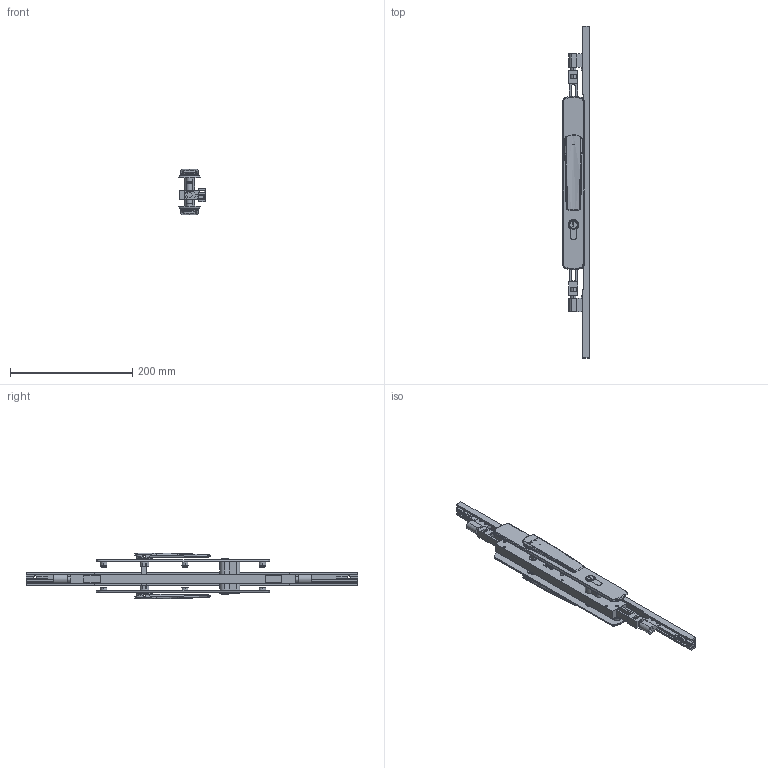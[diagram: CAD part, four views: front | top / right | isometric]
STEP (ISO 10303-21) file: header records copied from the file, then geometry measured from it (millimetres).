
FILE_DESCRIPTION (( 'STEP AP214' ), '1' );
FILE_NAME ('TPL-W-APC-614-L 28Oct2024.STEP', '2024-10-28T03:52:20', ( '' ), ( '' ), 'SwSTEP 2.0', 'SolidWorks 2023', '' );
FILE_SCHEMA (( 'AUTOMOTIVE_DESIGN' ));
Length unit declared in the file: millimetre
Products named in the file (24): Copy of LKC-514 Escutcheon plate keyed external 285mm long zinc - simplified^Copy of TPGen2 handle keyed external zinc - simplified_TPL-W-APC-114 18Oct2024; Copy of LKC-531 Lock twinpoint transmission rod wood system^TPL-W-APC-114 18Oct2024_Standard Range (588.7mm); Adapter D - simplfied^TPL-W-APC-114 18Oct2024; Copy of COV-115-A Cover A suit TPLGen2 standard range AU with hinge holes^TPL-W-APC-114 18Oct2024_1335mm; Copy of LKC-505 Swing handle zinc - simplified^Copy of TPGen2 handle keyed internal zinc - simplified_TPL-W-APC-114 18Oct2024; Copy of LKC-586 Spindle square 8mm with M4 hole^Copy of TPGen2 handle keyed internal zinc - simplified_TPL-W-APC-114 18Oct2024_42mm; Copy of LKC-585 Rotator body zinc^Copy of TPGen2 handle keyed internal zinc - simplified_TPL-W-APC-114 18Oct2024; Copy of COV-115-C Cover C suit TPLGen2 standard range AU^TPL-W-APC-114 18Oct2024; Copy of COV-115-B Cover B suit TPLGen2 standard range AU with hinge holes^TPL-W-APC-114 18Oct2024_2870mm; Copy of LKC-505 Swing handle zinc - simplified^Copy of TPGen2 handle keyed external zinc - simplified_TPL-W-APC-114 18Oct2024; Copy of TPLGen2 push rod - simplified^Copy of TPLGen2 lock body keyed assembly_TPL-W-APC-114 18Oct2024_Female thread M10; Copy of TPLGen2 lock body keyed^Copy of TPLGen2 lock body keyed assembly_TPL-W-APC-114 18Oct2024; Bolt.step; Copy of TPLGen2 lock body keyed assembly^TPL-W-APC-114 18Oct2024_Bolts extended; Copy of LKC-585 Rotator body zinc^Copy of TPGen2 handle keyed external zinc - simplified_TPL-W-APC-114 18Oct2024; Adapter C - simplfied^TPL-W-APC-114 18Oct2024; Copy of TPL-036 Lock cylinder double key C4 3-5 PIN 55 (23-32)mm^TPL-W-APC-114 18Oct2024_Right; Copy of LKC-584 Pivot body zinc - simplified^Copy of TPGen2 handle keyed internal zinc - simplified_TPL-W-APC-114 18Oct2024; Copy of LKC-584 Pivot body zinc - simplified^Copy of TPGen2 handle keyed external zinc - simplified_TPL-W-APC-114 18Oct2024; Copy of Copy of LKC-531 Lock twinpoint transmission rod wood system^TPL-W-APC-114 18Oct2024_Standard Range 2891.7mm; Copy of LKC-512 Escutcheon plate keyed internal 285mm long zinc - simplified^Copy of TPGen2 handle keyed internal zinc - simplified_TPL-W-APC-114 18Oct2024; Copy of TPGen2 handle keyed internal zinc - simplified^TPL-W-APC-114 18Oct2024_Vertical; Copy of TPGen2 handle keyed external zinc - simplified^TPL-W-APC-114 18Oct2024_Vertical; TPL-W-APC-614-L 28Oct2024
Assembly tree (21 placements, depth 3):
  Copy of COV-115-A Cover A suit TPLGen2 standard range AU with hinge holes^TPL-W-APC-114 18Oct2024_1335mm
  Copy of COV-115-B Cover B suit TPLGen2 standard range AU with hinge holes^TPL-W-APC-114 18Oct2024_2870mm
  Bolt.step
  TPL-W-APC-614-L 28Oct2024
    Copy of TPLGen2 lock body keyed assembly^TPL-W-APC-114 18Oct2024_Bolts extended
      Copy of TPLGen2 lock body keyed^Copy of TPLGen2 lock body keyed assembly_TPL-W-APC-114 18Oct2024
      Copy of TPLGen2 push rod - simplified^Copy of TPLGen2 lock body keyed assembly_TPL-W-APC-114 18Oct2024_Female thread M10  x2
    Copy of TPGen2 handle keyed internal zinc - simplified^TPL-W-APC-114 18Oct2024_Vertical
      Copy of LKC-512 Escutcheon plate keyed internal 285mm long zinc - simplified^Copy of TPGen2 handle keyed internal zinc - simplified_TPL-W-APC-114 18Oct2024
      Copy of LKC-505 Swing handle zinc - simplified^Copy of TPGen2 handle keyed internal zinc - simplified_TPL-W-APC-114 18Oct2024
      Copy of LKC-585 Rotator body zinc^Copy of TPGen2 handle keyed internal zinc - simplified_TPL-W-APC-114 18Oct2024
      Copy of LKC-586 Spindle square 8mm with M4 hole^Copy of TPGen2 handle keyed internal zinc - simplified_TPL-W-APC-114 18Oct2024_42mm
      Copy of LKC-584 Pivot body zinc - simplified^Copy of TPGen2 handle keyed internal zinc - simplified_TPL-W-APC-114 18Oct2024
    Copy of TPGen2 handle keyed external zinc - simplified^TPL-W-APC-114 18Oct2024_Vertical
      Copy of LKC-514 Escutcheon plate keyed external 285mm long zinc - simplified^Copy of TPGen2 handle keyed external zinc - simplified_TPL-W-APC-114 18Oct2024
      Copy of LKC-505 Swing handle zinc - simplified^Copy of TPGen2 handle keyed external zinc - simplified_TPL-W-APC-114 18Oct2024
      Copy of LKC-585 Rotator body zinc^Copy of TPGen2 handle keyed external zinc - simplified_TPL-W-APC-114 18Oct2024
      Copy of LKC-584 Pivot body zinc - simplified^Copy of TPGen2 handle keyed external zinc - simplified_TPL-W-APC-114 18Oct2024
    Copy of TPL-036 Lock cylinder double key C4 3-5 PIN 55 (23-32)mm^TPL-W-APC-114 18Oct2024_Right
    Copy of LKC-531 Lock twinpoint transmission rod wood system^TPL-W-APC-114 18Oct2024_Standard Range (588.7mm)
    Copy of Copy of LKC-531 Lock twinpoint transmission rod wood system^TPL-W-APC-114 18Oct2024_Standard Range 2891.7mm
    Copy of COV-115-C Cover C suit TPLGen2 standard range AU^TPL-W-APC-114 18Oct2024
    Adapter C - simplfied^TPL-W-APC-114 18Oct2024
    Adapter D - simplfied^TPL-W-APC-114 18Oct2024
Bounding box: 43.5 x 544 x 74.92 mm (x, y, z)
Volume: 343539.8 mm3; surface area: 169302.1 mm2
Topology: 18 solids, 18 shells, 1382 faces, 3356 edges, 2052 vertices
Faces by surface type: bspline 417, plane 387, cylinder 332, cone 132, torus 98, sphere 16
Entity records: 52052 total; most frequent: CARTESIAN_POINT 22768, ORIENTED_EDGE 6516, DIRECTION 5280, EDGE_CURVE 3258, AXIS2_PLACEMENT_3D 2048, VERTEX_POINT 1992, EDGE_LOOP 1480, FACE_OUTER_BOUND 1347
